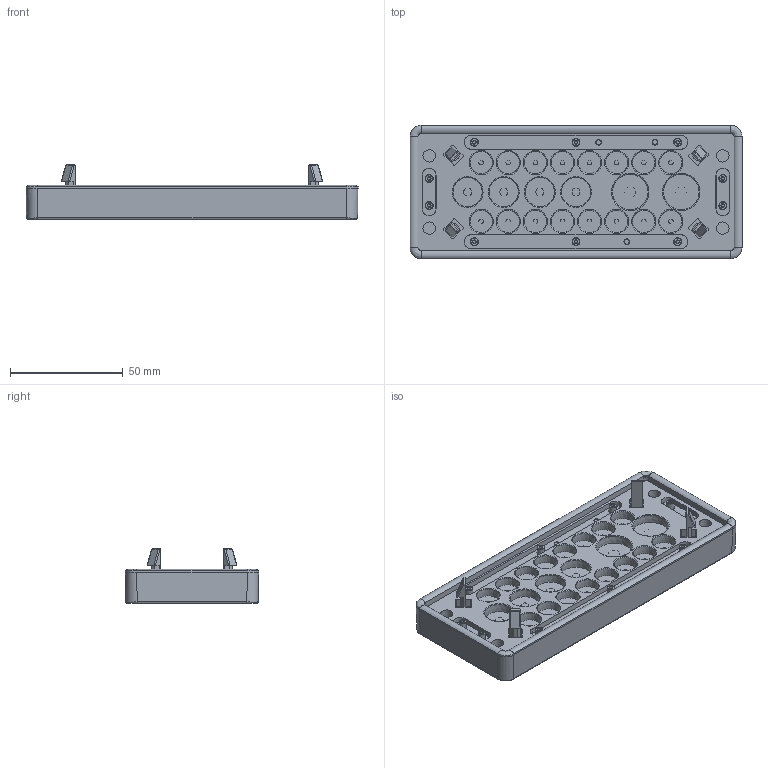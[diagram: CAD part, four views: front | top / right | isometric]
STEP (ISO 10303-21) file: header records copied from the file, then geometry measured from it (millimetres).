
FILE_DESCRIPTION(/* description */ (''),/* implementation_level */ '2;1');
FILE_NAME(/* name */ 'KDP-N_24-22_1.stp',/* time_stamp */ '2021-12-14T11:21:09+08:00',/* author */ (''),/* organization */ (''),/* preprocessor_version */ 'ST-DEVELOPER v16.7',/* originating_system */ 'SIEMENS PLM Software NX 12.0',/* authorisation */ '');
FILE_SCHEMA (('AP203_CONFIGURATION_CONTROLLED_3D_DESIGN_OF_MECHANICAL_PARTS_AND_ASSEMBLIES_MIM_LF { 1 0 10303 403 2 1 2}'));
Products named in the file (1): Admi0FF0788134sn
Bounding box: 147 x 59 x 24 mm (x, y, z)
Volume: 71395.5 mm3; surface area: 46641.8 mm2
Topology: 1 solids, 23 shells, 1957 faces, 5014 edges, 3258 vertices
Faces by surface type: plane 836, extrusion 383, cylinder 237, bspline 226, cone 163, torus 104, sphere 8
Full cylindrical faces by diameter (mm): 2.5 x3, 3.5 x10, 5.5 x4, 7.5 x16, 9 x4, 10 x4, 13.2 x2
Entity records: 78830 total; most frequent: CARTESIAN_POINT 23898, ORIENTED_EDGE 9404, DIRECTION 7295, EDGE_CURVE 4702, VERTEX_POINT 3156, VECTOR 2601, EDGE_LOOP 2402, AXIS2_PLACEMENT_3D 2347
